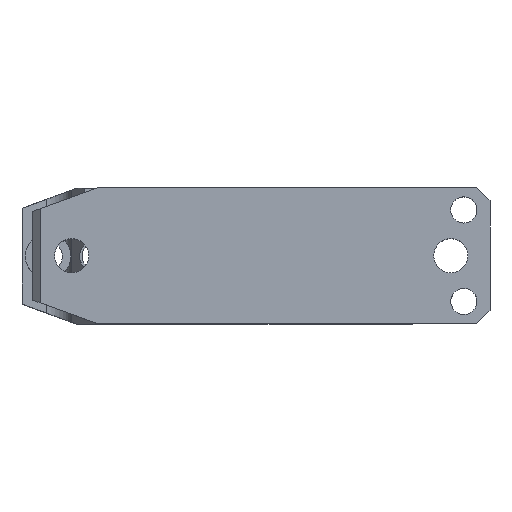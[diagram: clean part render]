
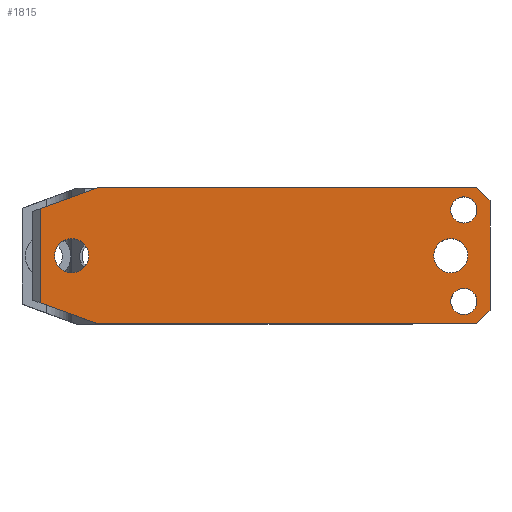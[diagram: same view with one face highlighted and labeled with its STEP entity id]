
A CAD part, top view. The second image highlights one B-rep face of the part: STEP entity #1815.
In plain terms, the highlighted planar face has unit normal (0, 0, 1).
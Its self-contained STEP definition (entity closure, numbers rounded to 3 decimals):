
#36 = AXIS2_PLACEMENT_3D ( 'NONE', #3907, #10038, #4803 ) ;
#168 = ORIENTED_EDGE ( 'NONE', *, *, #7015, .T. ) ;
#329 = ORIENTED_EDGE ( 'NONE', *, *, #2228, .T. ) ;
#356 = CARTESIAN_POINT ( 'NONE',  ( 169., 17.5, 125. ) ) ;
#613 = AXIS2_PLACEMENT_3D ( 'NONE', #7627, #2367, #8515 ) ;
#680 = VECTOR ( 'NONE', #1476, 1000. ) ;
#726 = CARTESIAN_POINT ( 'NONE',  ( 170.5, 0., 125. ) ) ;
#727 = ORIENTED_EDGE ( 'NONE', *, *, #9799, .F. ) ;
#736 = VERTEX_POINT ( 'NONE', #6089 ) ;
#778 = AXIS2_PLACEMENT_3D ( 'NONE', #1840, #7983, #2727 ) ;
#865 = DIRECTION ( 'NONE',  ( 0., 0., -1. ) ) ;
#1011 = DIRECTION ( 'NONE',  ( 0., 0., -1. ) ) ;
#1033 = VERTEX_POINT ( 'NONE', #2956 ) ;
#1257 = DIRECTION ( 'NONE',  ( -1., 0., 0. ) ) ;
#1312 = AXIS2_PLACEMENT_3D ( 'NONE', #6287, #1011, #7147 ) ;
#1349 = CIRCLE ( 'NONE', #36, 5. ) ;
#1405 = VECTOR ( 'NONE', #8861, 1000. ) ;
#1476 = DIRECTION ( 'NONE',  ( 0.707, -0.707, 0. ) ) ;
#1523 = CARTESIAN_POINT ( 'NONE',  ( 12.5, 0., 125. ) ) ;
#1662 = EDGE_CURVE ( 'NONE', #8604, #736, #9442, .T. ) ;
#1703 = ORIENTED_EDGE ( 'NONE', *, *, #3358, .F. ) ;
#1801 = CIRCLE ( 'NONE', #10693, 5. ) ;
#1815 = ADVANCED_FACE ( 'NONE', ( #5766, #10120, #5489, #3417, #3137 ), #11075, .F. ) ;
#1840 = CARTESIAN_POINT ( 'NONE',  ( 19., 0., 125. ) ) ;
#1857 = EDGE_LOOP ( 'NONE', ( #168, #6161 ) ) ;
#1964 = LINE ( 'NONE', #6252, #4856 ) ;
#2011 = VECTOR ( 'NONE', #6397, 1000. ) ;
#2147 = EDGE_LOOP ( 'NONE', ( #10534, #329 ) ) ;
#2228 = EDGE_CURVE ( 'NONE', #6969, #4605, #10826, .T. ) ;
#2276 = CARTESIAN_POINT ( 'NONE',  ( 169., -17.5, 125. ) ) ;
#2367 = DIRECTION ( 'NONE',  ( 0., 0., -1. ) ) ;
#2405 = LINE ( 'NONE', #4170, #9276 ) ;
#2484 = CARTESIAN_POINT ( 'NONE',  ( 164., 0., 125. ) ) ;
#2617 = AXIS2_PLACEMENT_3D ( 'NONE', #356, #6522, #1257 ) ;
#2654 = ORIENTED_EDGE ( 'NONE', *, *, #1662, .T. ) ;
#2727 = DIRECTION ( 'NONE',  ( -1., 0., 0. ) ) ;
#2830 = VERTEX_POINT ( 'NONE', #7037 ) ;
#2881 = EDGE_CURVE ( 'NONE', #3528, #6018, #1964, .T. ) ;
#2936 = DIRECTION ( 'NONE',  ( 0., 0., -1. ) ) ;
#2956 = CARTESIAN_POINT ( 'NONE',  ( 179., -21., 125. ) ) ;
#3001 = EDGE_CURVE ( 'NONE', #4605, #6969, #7314, .T. ) ;
#3032 = LINE ( 'NONE', #3196, #680 ) ;
#3078 = CARTESIAN_POINT ( 'NONE',  ( 25.5, 0., 125. ) ) ;
#3110 = VERTEX_POINT ( 'NONE', #10904 ) ;
#3137 = FACE_OUTER_BOUND ( 'NONE', #3646, .T. ) ;
#3158 = CARTESIAN_POINT ( 'NONE',  ( 29., -26., 125. ) ) ;
#3163 = DIRECTION ( 'NONE',  ( -1., 0., 0. ) ) ;
#3196 = CARTESIAN_POINT ( 'NONE',  ( 174., 26., 125. ) ) ;
#3263 = ORIENTED_EDGE ( 'NONE', *, *, #8246, .F. ) ;
#3358 = EDGE_CURVE ( 'NONE', #2830, #1033, #8687, .T. ) ;
#3365 = DIRECTION ( 'NONE',  ( -1., 0., 0. ) ) ;
#3417 = FACE_BOUND ( 'NONE', #8050, .T. ) ;
#3457 = CARTESIAN_POINT ( 'NONE',  ( 174., 26., 125. ) ) ;
#3528 = VERTEX_POINT ( 'NONE', #6498 ) ;
#3577 = LINE ( 'NONE', #3848, #10274 ) ;
#3580 = CARTESIAN_POINT ( 'NONE',  ( 179., 26., 125. ) ) ;
#3646 = EDGE_LOOP ( 'NONE', ( #8470, #10767, #727, #6003, #9270, #1703, #3263, #4166 ) ) ;
#3778 = EDGE_CURVE ( 'NONE', #3793, #3110, #4007, .T. ) ;
#3793 = VERTEX_POINT ( 'NONE', #10377 ) ;
#3848 = CARTESIAN_POINT ( 'NONE',  ( 4., -26., 125. ) ) ;
#3866 = EDGE_CURVE ( 'NONE', #10115, #4196, #9898, .T. ) ;
#3907 = CARTESIAN_POINT ( 'NONE',  ( 169., 17.5, 125. ) ) ;
#3977 = CARTESIAN_POINT ( 'NONE',  ( 164., -17.5, 125. ) ) ;
#4007 = LINE ( 'NONE', #11231, #6621 ) ;
#4166 = ORIENTED_EDGE ( 'NONE', *, *, #2881, .F. ) ;
#4170 = CARTESIAN_POINT ( 'NONE',  ( 174., -26., 125. ) ) ;
#4196 = VERTEX_POINT ( 'NONE', #3977 ) ;
#4223 = DIRECTION ( 'NONE',  ( 0., -1., 0. ) ) ;
#4415 = DIRECTION ( 'NONE',  ( 0.94, 0.342, 0. ) ) ;
#4504 = LINE ( 'NONE', #10523, #6571 ) ;
#4605 = VERTEX_POINT ( 'NONE', #1523 ) ;
#4767 = ORIENTED_EDGE ( 'NONE', *, *, #5692, .T. ) ;
#4803 = DIRECTION ( 'NONE',  ( -1., 0., 0. ) ) ;
#4856 = VECTOR ( 'NONE', #8005, 1000. ) ;
#5058 = EDGE_CURVE ( 'NONE', #5185, #10647, #3577, .T. ) ;
#5185 = VERTEX_POINT ( 'NONE', #3158 ) ;
#5219 = ORIENTED_EDGE ( 'NONE', *, *, #9021, .T. ) ;
#5489 = FACE_BOUND ( 'NONE', #2147, .T. ) ;
#5664 = AXIS2_PLACEMENT_3D ( 'NONE', #8202, #2936, #9061 ) ;
#5692 = EDGE_CURVE ( 'NONE', #736, #8604, #1349, .T. ) ;
#5766 = FACE_BOUND ( 'NONE', #1857, .T. ) ;
#5815 = AXIS2_PLACEMENT_3D ( 'NONE', #2484, #8630, #3365 ) ;
#5970 = AXIS2_PLACEMENT_3D ( 'NONE', #6138, #865, #7006 ) ;
#6003 = ORIENTED_EDGE ( 'NONE', *, *, #5058, .T. ) ;
#6018 = VERTEX_POINT ( 'NONE', #3457 ) ;
#6089 = CARTESIAN_POINT ( 'NONE',  ( 174., 17.5, 125. ) ) ;
#6138 = CARTESIAN_POINT ( 'NONE',  ( 169., -17.5, 125. ) ) ;
#6161 = ORIENTED_EDGE ( 'NONE', *, *, #3866, .T. ) ;
#6252 = CARTESIAN_POINT ( 'NONE',  ( 4., 26., 125. ) ) ;
#6287 = CARTESIAN_POINT ( 'NONE',  ( 164., 0., 125. ) ) ;
#6397 = DIRECTION ( 'NONE',  ( -0.94, 0.342, 0. ) ) ;
#6498 = CARTESIAN_POINT ( 'NONE',  ( 29., 26., 125. ) ) ;
#6522 = DIRECTION ( 'NONE',  ( 0., 0., -1. ) ) ;
#6571 = VECTOR ( 'NONE', #4415, 1000. ) ;
#6621 = VECTOR ( 'NONE', #4223, 1000. ) ;
#6682 = LINE ( 'NONE', #8979, #2011 ) ;
#6799 = VERTEX_POINT ( 'NONE', #7181 ) ;
#6910 = EDGE_LOOP ( 'NONE', ( #2654, #4767 ) ) ;
#6969 = VERTEX_POINT ( 'NONE', #3078 ) ;
#7006 = DIRECTION ( 'NONE',  ( -1., 0., 0. ) ) ;
#7015 = EDGE_CURVE ( 'NONE', #4196, #10115, #1801, .T. ) ;
#7037 = CARTESIAN_POINT ( 'NONE',  ( 179., 21., 125. ) ) ;
#7147 = DIRECTION ( 'NONE',  ( -1., 0., 0. ) ) ;
#7181 = CARTESIAN_POINT ( 'NONE',  ( 157.5, 0., 125. ) ) ;
#7314 = CIRCLE ( 'NONE', #5664, 6.5 ) ;
#7627 = CARTESIAN_POINT ( 'NONE',  ( 4., 26., 125. ) ) ;
#7966 = CARTESIAN_POINT ( 'NONE',  ( 174., -26., 125. ) ) ;
#7983 = DIRECTION ( 'NONE',  ( 0., 0., -1. ) ) ;
#8005 = DIRECTION ( 'NONE',  ( 1., 0., 0. ) ) ;
#8050 = EDGE_LOOP ( 'NONE', ( #5219, #8781 ) ) ;
#8202 = CARTESIAN_POINT ( 'NONE',  ( 19., 0., 125. ) ) ;
#8246 = EDGE_CURVE ( 'NONE', #6018, #2830, #3032, .T. ) ;
#8333 = VERTEX_POINT ( 'NONE', #726 ) ;
#8418 = DIRECTION ( 'NONE',  ( 0., 0., -1. ) ) ;
#8470 = ORIENTED_EDGE ( 'NONE', *, *, #9120, .F. ) ;
#8515 = DIRECTION ( 'NONE',  ( -1., 0., 0. ) ) ;
#8604 = VERTEX_POINT ( 'NONE', #9018 ) ;
#8630 = DIRECTION ( 'NONE',  ( 0., 0., -1. ) ) ;
#8687 = LINE ( 'NONE', #3580, #1405 ) ;
#8781 = ORIENTED_EDGE ( 'NONE', *, *, #10679, .T. ) ;
#8861 = DIRECTION ( 'NONE',  ( 0., -1., 0. ) ) ;
#8979 = CARTESIAN_POINT ( 'NONE',  ( 4., -16.901, 125. ) ) ;
#9018 = CARTESIAN_POINT ( 'NONE',  ( 164., 17.5, 125. ) ) ;
#9021 = EDGE_CURVE ( 'NONE', #6799, #8333, #9304, .T. ) ;
#9061 = DIRECTION ( 'NONE',  ( -1., 0., 0. ) ) ;
#9120 = EDGE_CURVE ( 'NONE', #3793, #3528, #4504, .T. ) ;
#9270 = ORIENTED_EDGE ( 'NONE', *, *, #10469, .F. ) ;
#9276 = VECTOR ( 'NONE', #10287, 1000. ) ;
#9304 = CIRCLE ( 'NONE', #5815, 6.5 ) ;
#9410 = CIRCLE ( 'NONE', #1312, 6.5 ) ;
#9442 = CIRCLE ( 'NONE', #2617, 5. ) ;
#9799 = EDGE_CURVE ( 'NONE', #5185, #3110, #6682, .T. ) ;
#9898 = CIRCLE ( 'NONE', #5970, 5. ) ;
#9980 = DIRECTION ( 'NONE',  ( 1., 0., 0. ) ) ;
#10038 = DIRECTION ( 'NONE',  ( 0., 0., -1. ) ) ;
#10115 = VERTEX_POINT ( 'NONE', #10722 ) ;
#10120 = FACE_BOUND ( 'NONE', #6910, .T. ) ;
#10274 = VECTOR ( 'NONE', #9980, 1000. ) ;
#10287 = DIRECTION ( 'NONE',  ( -0.707, -0.707, 0. ) ) ;
#10377 = CARTESIAN_POINT ( 'NONE',  ( 7., 17.993, 125. ) ) ;
#10469 = EDGE_CURVE ( 'NONE', #1033, #10647, #2405, .T. ) ;
#10523 = CARTESIAN_POINT ( 'NONE',  ( 4., 16.901, 125. ) ) ;
#10534 = ORIENTED_EDGE ( 'NONE', *, *, #3001, .T. ) ;
#10647 = VERTEX_POINT ( 'NONE', #7966 ) ;
#10679 = EDGE_CURVE ( 'NONE', #8333, #6799, #9410, .T. ) ;
#10693 = AXIS2_PLACEMENT_3D ( 'NONE', #2276, #8418, #3163 ) ;
#10722 = CARTESIAN_POINT ( 'NONE',  ( 174., -17.5, 125. ) ) ;
#10767 = ORIENTED_EDGE ( 'NONE', *, *, #3778, .T. ) ;
#10826 = CIRCLE ( 'NONE', #778, 6.5 ) ;
#10904 = CARTESIAN_POINT ( 'NONE',  ( 7., -17.993, 125. ) ) ;
#11075 = PLANE ( 'NONE',  #613 ) ;
#11231 = CARTESIAN_POINT ( 'NONE',  ( 7., 26., 125. ) ) ;
